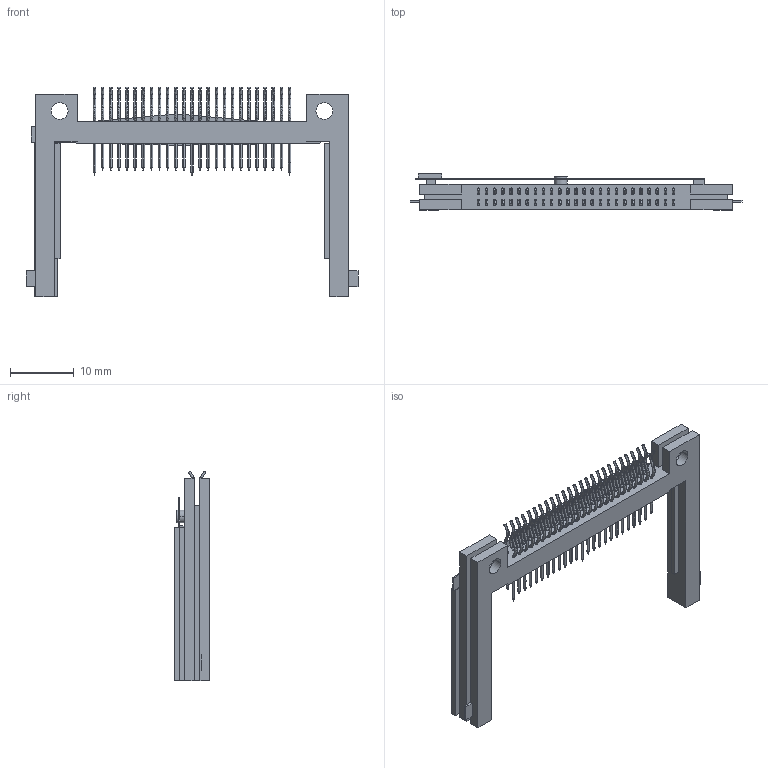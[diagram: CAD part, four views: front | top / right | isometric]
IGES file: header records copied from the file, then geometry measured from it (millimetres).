
Start section:  PTC IGES file: ejected-cf-pin_prt.igs
Global section: file name: ejected-cf-pin_prt.igs; native system: Pro/ENGINEER by Parametric Technology Corporation; preprocessor: 2000030; author: ECaille; organization: Unknown; date: 000803.091934; units: millimetre
Bounding box: 51.9 x 5.6 x 32.8 mm (x, y, z)
Surface area: 3028 mm2 (no closed solid volume)
Topology: 0 solids, 0 shells, 931 faces, 5710 edges, 7066 vertices
Faces by surface type: revolution 712, bspline 219
